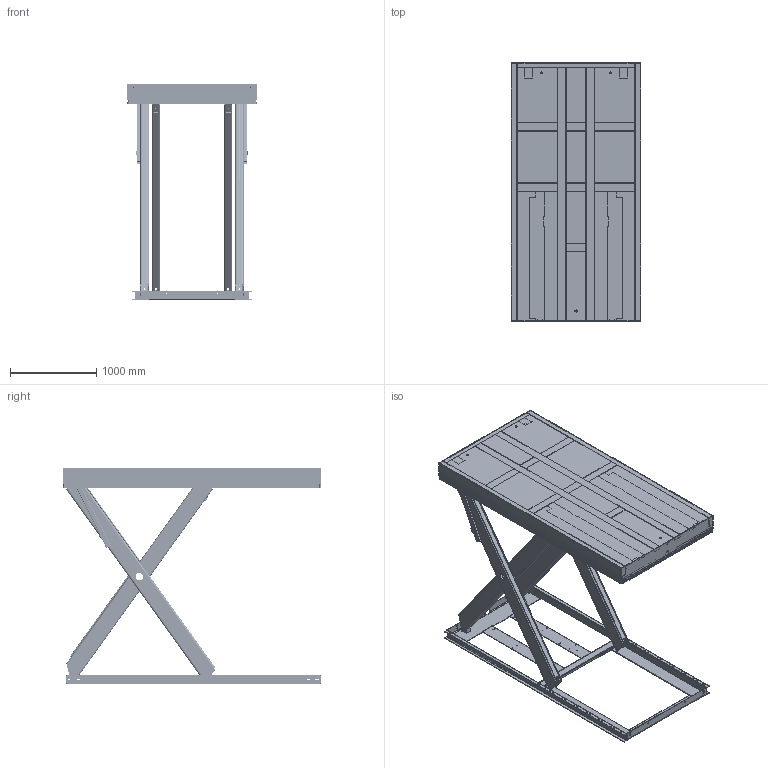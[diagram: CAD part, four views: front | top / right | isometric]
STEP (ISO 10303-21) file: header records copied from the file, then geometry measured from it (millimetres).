
FILE_DESCRIPTION(/* description */ ('TP 6000'),/* implementation_level */ '2;1');
FILE_NAME(/* name */ 'C:\Autodesk_VaultWork\Ritningar\614500_614999\614660_Raised.stp',/* time_stamp */ '2020-12-22T14:23:51+01:00',/* author */ ('johso'),/* organization */ (''),/* preprocessor_version */ 'ST-DEVELOPER v16.5',/* originating_system */ 'Autodesk Inventor 2017',/* authorisation */ '');
FILE_SCHEMA (('AUTOMOTIVE_DESIGN { 1 0 10303 214 3 1 1 }'));
Products named in the file (63): 614660.tmp; 514565; 514568-1; 515594-2; 515594-1; 514568-2; 600366; 41333-1300; 514568-3; 614601; 614597; 614598; ISO 4019 - 200x100x8 - 2880; 42430-50; 614600; 614599; ISO 4019 - 200x100x8 - 2880_1; 84098-1150; 614693; 614667; 614659; 614654; 614655; 614656; 42369-2986; 614685; 614658; 42565; 41333-2936; 41333-230; 614657; 41333-467; 45387; 80131; 42430-1386; 85955; 614612; 42289-2955; 42289-1455; 611843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
Assembly tree (139 placements, depth 5):
  614660.tmp
    514565
      514568-1
      515594-2
      515594-1
      42565  x2
      514568-2
      600366  x2
      41333-1300
      514568-3  x2
    614601
      614597
        614598  x2
          ISO 4019 - 200x100x8 - 2880
        42430-50  x2
        84098-1150
      614600
        614599  x2
          ISO 4019 - 200x100x8 - 2880_1
        84098-1150
        614693  x2
      614667
    614659
      614654
      614655  x2
      614656  x2
      42369-2986  x2
      614685
      614658  x2
      42565  x2
      41333-2936  x2
      41333-230  x3
      614657  x2
      41333-467  x4
      85955  x7
      45387  x12
      80131  x8
      42430-1386  x2
    614612
      42289-2955  x2
      42289-1455  x2
      43481  x8
      42330  x8
      611843  x4
      83552  x4
      33990  x4
        33991
        44283
        44280
        44279
        Compression-Spring-SF-TF1272-SS1774-04-Lesjofors-STEP
        ISO 7089 - 5
        84253
        44281
          44281-1
          ISO 2009 - M4 x 12
        84076
        83928
        44277
        44278
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Bounding box: 1500 x 3000 x 2500 mm (x, y, z)
Volume: 134156553.3 mm3; surface area: 41042113 mm2
Topology: 189 solids, 189 shells, 8517 faces, 23115 edges, 15233 vertices
Faces by surface type: plane 4669, cylinder 2832, bspline 710, cone 206, torus 100
Full cylindrical faces by diameter (mm): 0.474 x4, 1 x8, 3 x8, 3.141 x8, 3.2 x8, 3.242 x8, 4 x28, 4.3 x8, 4.445 x4, 4.9 x4, 5 x16, 5.156 x4, 5.2 x12, 5.3 x8, 5.6 x4, 5.969 x4, 7.4 x8, 7.6 x8, 8 x28, 8.5 x8, 9.3 x4, 10 x12, 10.5 x8, 11 x4, 11.63 x8, 12 x14, 12.5 x6, 13 x8, 13.835 x7, 15 x2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
Entity records: 102349 total; most frequent: CARTESIAN_POINT 24325, ORIENTED_EDGE 15932, DIRECTION 15726, EDGE_CURVE 7965, VERTEX_POINT 5338, LINE 5312, VECTOR 5312, AXIS2_PLACEMENT_3D 5207
